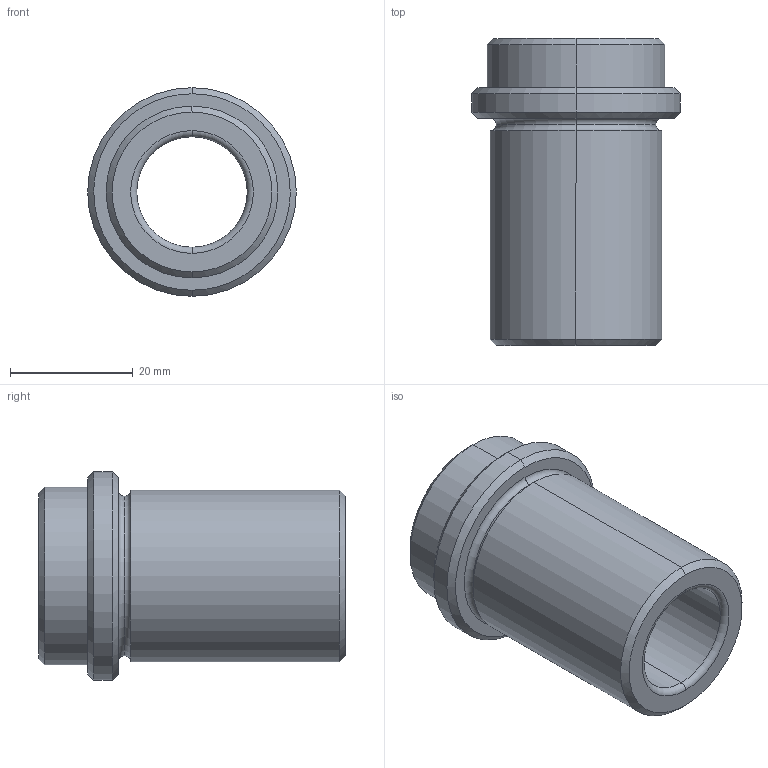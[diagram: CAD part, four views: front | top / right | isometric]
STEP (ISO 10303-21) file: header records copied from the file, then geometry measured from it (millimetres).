
FILE_DESCRIPTION(('CATIA V5 STEP Exchange'),'2;1');
FILE_NAME('C:\Users\Utente\Desktop\IO LAVORO\3D X SITO CF\X SITO\CF 439\CF 439 18x50.stp','2020-12-27T21:03:36+00:00',('none'),('none'),'CATIA Version 5 Release 20 GA (IN-10)','CATIA V5 STEP AP203','none');
FILE_SCHEMA(('CONFIG_CONTROL_DESIGN'));
Length unit declared in the file: millimetre
Products named in the file (1): CF 439 18x50
Bounding box: 34 x 50 x 34 mm (x, y, z)
Volume: 19532.1 mm3; surface area: 8456.9 mm2
Topology: 1 solids, 1 shells, 28 faces, 86 edges, 62 vertices
Faces by surface type: torus 8, cylinder 8, cone 8, plane 4
Entity records: 1104 total; most frequent: CARTESIAN_POINT 289, ORIENTED_EDGE 172, DIRECTION 134, AXIS2_PLACEMENT_3D 91, EDGE_CURVE 86, CIRCLE 62, VERTEX_POINT 62, EDGE_LOOP 32
